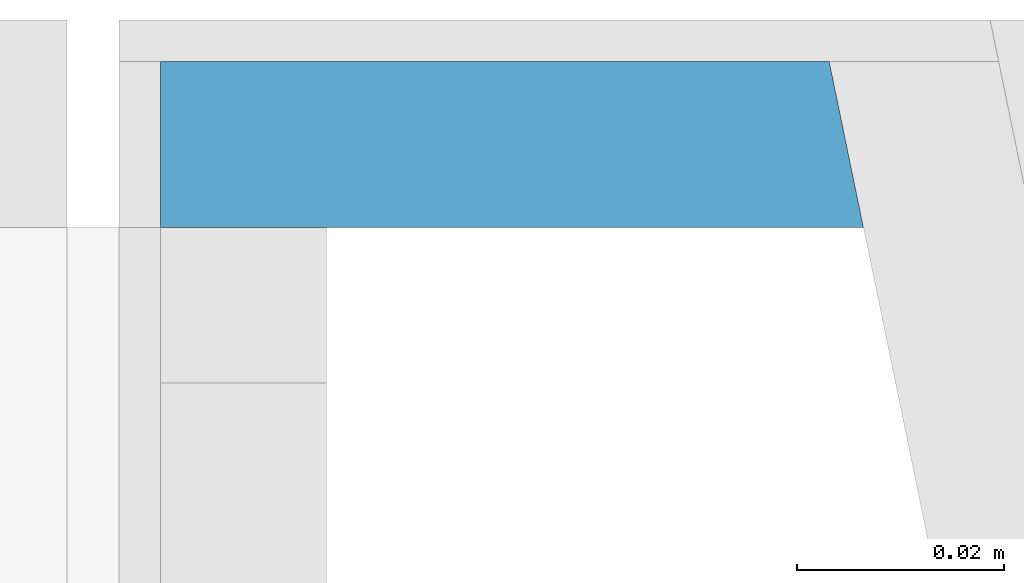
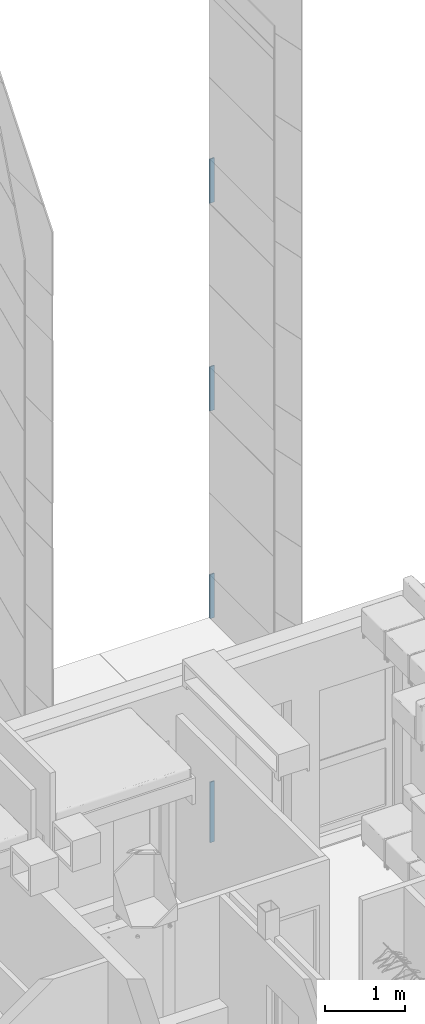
# One storey, part 37 of 125: 4 building element parts, 1 element without a shape of its own.
"""IFC2X3 building model written with IfcOpenShell, lengths in millimetres."""

from ifc_helpers import new_model, entity, si_unit, converted_unit, direction, frame, origin, place, context, subcontext, project, spatial, polyline, outline, extrude, material, type_object, element, aggregate, save


model = new_model("IFC2X3")

# Units and contexts
model_context = context("Model", 3, precision=0.01, world=origin(), true_north=direction((6.123233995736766e-17, 1.0)))
plan_context = context("Plan", 3, precision=0.01, world=origin(), true_north=direction((6.123233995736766e-17, 1.0)))
body_context = subcontext(model_context, "Body", "Model", "MODEL_VIEW")
ifc_project = project(units=[si_unit("LENGTHUNIT", "METRE", prefix="MILLI"), converted_unit("PLANEANGLEUNIT", "DEGREE", entity("IfcPlaneAngleMeasure", 0.017453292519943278), si_unit("PLANEANGLEUNIT", "RADIAN"), dimensions=[0, 0, 0, 0, 0, 0, 0]), si_unit("AREAUNIT", "SQUARE_METRE")], contexts=[model_context, plan_context])

# Site, building, storey
site_placement = place(None, origin())
site = spatial("IfcSite", under=ifc_project, at=site_placement, Name="Default", CompositionType="ELEMENT")
building_placement = place(site_placement, origin())
building = spatial("IfcBuilding", under=site, at=building_placement, CompositionType="ELEMENT")
storey_placement = place(building_placement, frame((0.0, 0.0, 3125.0)))
storey = spatial("IfcBuildingStorey", under=building, at=storey_placement, Name="2K", CompositionType="ELEMENT", Elevation=3125.0)

# Wall, building element parts
wall_type = type_object("IfcWallType", Name="Basic Wall:VS-komposiit", PredefinedType="STANDARD")
wall_placement = place(storey_placement, frame((8286.775755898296, 17442.0, -1010.0), z_axis=(0.0, 0.0, 1.0), x_axis=(-1.0, 0.0, 0.0)))
wall = element("IfcWall", 1, at=wall_placement, inside=storey, type_object=wall_type, Name="Basic Wall:VS-komposiit", ObjectType="Basic Wall:VS-komposiit")
ifc_material = material(Name="_K. Õhk. Roov. Fassaadikatte alusroov. Horisontaalne. 25 mm")
building_element_part_1_placement = place(wall_placement, origin())
building_element_part_1 = element("IfcBuildingElementPart", 2, at=building_element_part_1_placement, material=ifc_material, Name="Part", context=body_context, shape_type="SweptSolid", body=[
    extrude(outline(polyline([(-8.0, -33.06294461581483), (8.0, -33.06294461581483), (8.0, 34.7128112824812), (-8.0, 31.41307794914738), (-8.0, -33.06294461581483)])), frame((34.7128112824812, 2.0, 0.0), z_axis=(0.0, 0.0, 1.0), x_axis=(0.0, 1.0, 0.0)), (0.0, 0.0, 1.0), 922.4999999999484),
])
building_element_part_2_placement = place(wall_placement, origin())
building_element_part_2 = element("IfcBuildingElementPart", 3, at=building_element_part_2_placement, material=ifc_material, Name="Part", context=body_context, shape_type="SweptSolid", body=[
    extrude(outline(polyline([(-8.0, -33.06294461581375), (8.0, -33.06294461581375), (8.0, 34.712811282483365), (-8.0, 31.41307794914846), (-8.0, -33.06294461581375)])), frame((34.712811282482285, 2.0, 3417.499999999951), z_axis=(0.0, 0.0, 1.0), x_axis=(0.0, 1.0, 0.0)), (0.0, 0.0, 1.0), 674.999999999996),
])
building_element_part_3_placement = place(wall_placement, origin())
building_element_part_3 = element("IfcBuildingElementPart", 4, at=building_element_part_3_placement, material=ifc_material, Name="Part", context=body_context, shape_type="SweptSolid", body=[
    extrude(outline(polyline([(-8.0, -33.06294461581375), (8.0, -33.06294461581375), (8.0, 34.712811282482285), (-8.0, 31.41307794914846), (-8.0, -33.06294461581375)])), frame((34.712811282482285, 2.0, 6587.499999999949), z_axis=(0.0, 0.0, 1.0), x_axis=(0.0, 1.0, 0.0)), (0.0, 0.0, 1.0), 674.9999999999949),
])
building_element_part_4_placement = place(wall_placement, origin())
building_element_part_4 = element("IfcBuildingElementPart", 5, at=building_element_part_4_placement, material=ifc_material, Name="Part", context=body_context, shape_type="SweptSolid", body=[
    extrude(outline(polyline([(-8.0, -33.06294461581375), (8.0, -33.06294461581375), (8.0, 34.712811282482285), (-8.0, 31.41307794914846), (-8.0, -33.06294461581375)])), frame((34.712811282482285, 2.0, 9757.499999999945), z_axis=(0.0, 0.0, 1.0), x_axis=(0.0, 1.0, 0.0)), (0.0, 0.0, 1.0), 675.0000000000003),
])
aggregate(wall, [building_element_part_1, building_element_part_2, building_element_part_3, building_element_part_4])

save(model, "model.ifc")
